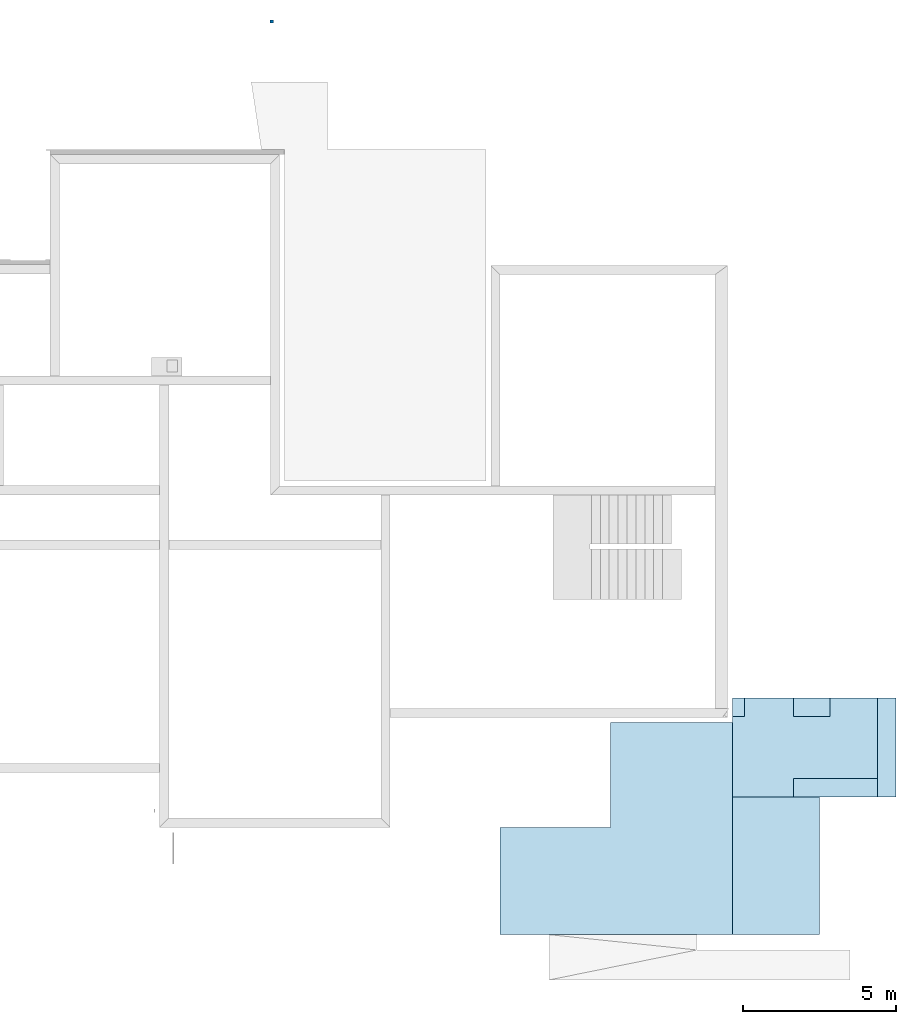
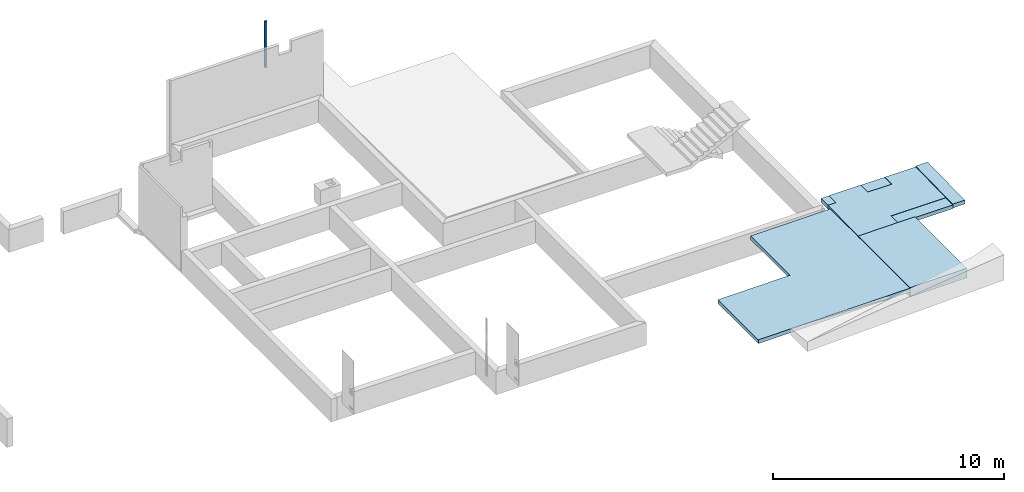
# One storey, part 2 of 5: 7 slabs, 1 column.
"""IFC2X3 building model written with IfcOpenShell, lengths in metres."""

from ifc_helpers import new_model, entity, si_unit, converted_unit, derived_unit, direction, frame, frame_2d, origin, origin_2d_with_axis, place, context, subcontext, project, spatial, polyline, rectangle, outline, extrude, source, transform, mapped, material, material_list, type_object, type_shapes, element, save


model = new_model("IFC2X3")

# Units and contexts
model_context = context("Model", 3, precision=1e-05, world=origin(), true_north=direction((6.123031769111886e-17, 1.0)))
body_context = subcontext(model_context, "Body", "Model", "MODEL_VIEW")
ifc_project = project(units=[si_unit("LENGTHUNIT", "METRE"), si_unit("AREAUNIT", "SQUARE_METRE"), si_unit("VOLUMEUNIT", "CUBIC_METRE"), converted_unit("PLANEANGLEUNIT", "DEGREE", entity("IfcRatioMeasure", 0.017453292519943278), si_unit("PLANEANGLEUNIT", "RADIAN"), dimensions=[0, 0, 0, 0, 0, 0, 0]), si_unit("MASSUNIT", "GRAM", prefix="KILO"), derived_unit("MASSDENSITYUNIT", [(si_unit("MASSUNIT", "GRAM", prefix="KILO"), 1), (si_unit("LENGTHUNIT", "METRE"), -3)]), derived_unit("MOMENTOFINERTIAUNIT", [(si_unit("LENGTHUNIT", "METRE"), 4)]), si_unit("TIMEUNIT", "SECOND"), si_unit("FREQUENCYUNIT", "HERTZ"), si_unit("THERMODYNAMICTEMPERATUREUNIT", "DEGREE_CELSIUS"), derived_unit("THERMALTRANSMITTANCEUNIT", [(si_unit("MASSUNIT", "GRAM", prefix="KILO"), 1), (si_unit("THERMODYNAMICTEMPERATUREUNIT", "KELVIN"), -1), (si_unit("TIMEUNIT", "SECOND"), -3)]), derived_unit("THERMALCONDUCTANCEUNIT", [(si_unit("MASSUNIT", "GRAM", prefix="KILO"), 1), (si_unit("LENGTHUNIT", "METRE"), 1), (si_unit("THERMODYNAMICTEMPERATUREUNIT", "KELVIN"), -1), (si_unit("TIMEUNIT", "SECOND"), -3)]), derived_unit("VOLUMETRICFLOWRATEUNIT", [(si_unit("LENGTHUNIT", "METRE"), 3), (si_unit("TIMEUNIT", "SECOND"), -1)]), derived_unit("MASSFLOWRATEUNIT", [(si_unit("MASSUNIT", "GRAM", prefix="KILO"), 1), (si_unit("TIMEUNIT", "SECOND"), -1)]), derived_unit("ROTATIONALFREQUENCYUNIT", [(si_unit("TIMEUNIT", "SECOND"), -1)]), si_unit("ELECTRICCURRENTUNIT", "AMPERE"), si_unit("ELECTRICVOLTAGEUNIT", "VOLT"), si_unit("POWERUNIT", "WATT"), si_unit("FORCEUNIT", "NEWTON", prefix="KILO"), si_unit("ILLUMINANCEUNIT", "LUX"), si_unit("LUMINOUSFLUXUNIT", "LUMEN"), si_unit("LUMINOUSINTENSITYUNIT", "CANDELA"), derived_unit("USERDEFINED", [(si_unit("MASSUNIT", "GRAM", prefix="KILO"), -1), (si_unit("LENGTHUNIT", "METRE"), -2), (si_unit("TIMEUNIT", "SECOND"), 3), (si_unit("LUMINOUSFLUXUNIT", "LUMEN"), 1)]), derived_unit("USERDEFINED", [(si_unit("MASSUNIT", "GRAM", prefix="KILO"), 1), (si_unit("LENGTHUNIT", "METRE"), 3), (si_unit("TIMEUNIT", "SECOND"), -3), (si_unit("ELECTRICCURRENTUNIT", "AMPERE"), -2)]), derived_unit("USERDEFINED", [(si_unit("LENGTHUNIT", "METRE"), 2), (si_unit("TIMEUNIT", "SECOND"), -2)]), derived_unit("SOUNDPOWERUNIT", [(si_unit("MASSUNIT", "GRAM", prefix="KILO"), 1), (si_unit("LENGTHUNIT", "METRE"), 2), (si_unit("TIMEUNIT", "SECOND"), -3)]), derived_unit("SOUNDPRESSUREUNIT", [(si_unit("MASSUNIT", "GRAM", prefix="KILO"), 1), (si_unit("LENGTHUNIT", "METRE"), -1), (si_unit("TIMEUNIT", "SECOND"), -2)]), derived_unit("LINEARVELOCITYUNIT", [(si_unit("LENGTHUNIT", "METRE"), 1), (si_unit("TIMEUNIT", "SECOND"), -1)]), si_unit("PRESSUREUNIT", "PASCAL"), derived_unit("USERDEFINED", [(si_unit("LENGTHUNIT", "METRE"), -2), (si_unit("MASSUNIT", "GRAM", prefix="KILO"), 1), (si_unit("TIMEUNIT", "SECOND"), -2)]), derived_unit("LINEARFORCEUNIT", [(si_unit("MASSUNIT", "GRAM", prefix="KILO"), 1), (si_unit("LENGTHUNIT", "METRE"), 1), (si_unit("TIMEUNIT", "SECOND"), -2), (si_unit("LENGTHUNIT", "METRE"), -1)]), derived_unit("PLANARFORCEUNIT", [(si_unit("MASSUNIT", "GRAM", prefix="KILO"), 1), (si_unit("LENGTHUNIT", "METRE"), 1), (si_unit("TIMEUNIT", "SECOND"), -2), (si_unit("LENGTHUNIT", "METRE"), -2)]), derived_unit("SPECIFICHEATCAPACITYUNIT", [(si_unit("LENGTHUNIT", "METRE"), 2), (si_unit("TIMEUNIT", "SECOND"), -2), (si_unit("THERMODYNAMICTEMPERATUREUNIT", "KELVIN"), -1)]), derived_unit("VAPORPERMEABILITYUNIT", [(si_unit("TIMEUNIT", "SECOND"), 1), (si_unit("LENGTHUNIT", "METRE"), -1)]), derived_unit("DYNAMICVISCOSITYUNIT", [(si_unit("MASSUNIT", "GRAM", prefix="KILO"), 1), (si_unit("LENGTHUNIT", "METRE"), -1), (si_unit("TIMEUNIT", "SECOND"), -1)]), derived_unit("THERMALEXPANSIONCOEFFICIENTUNIT", [(si_unit("THERMODYNAMICTEMPERATUREUNIT", "KELVIN"), -1)])], contexts=[model_context])

# Site, building, storey
site_placement = place(None, origin())
site = spatial("IfcSite", under=ifc_project, at=site_placement, Name="Default", CompositionType="ELEMENT")
building_placement = place(site_placement, origin())
building = spatial("IfcBuilding", under=site, at=building_placement, CompositionType="ELEMENT")
storey_placement = place(building_placement, frame((0.0, 0.0, -1.0)))
storey = spatial("IfcBuildingStorey", under=building, at=storey_placement, Name="VS", CompositionType="ELEMENT", Elevation=-0.9999999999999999)

# Column
ifc_material_1 = material(Name="Béton - Lissé")
ifc_material_2 = material(Name="<Unnamed>")
ifc_material_list = material_list([ifc_material_2, ifc_material_1])
column_type = type_object("IfcColumnType", Name="Pot-011 135587:Pot-011 135587", PredefinedType="COLUMN", material=ifc_material_list)
shared_shape = source(origin(), body_context, "Body", "SweptSolid", [
    extrude(rectangle(XDim=0.1, YDim=0.1, at=origin_2d_with_axis()), frame((0.0, 0.0, 0.0), z_axis=(0.0, 0.0, 1.0), x_axis=(0.0, -1.0, 0.0)), (0.0, 0.0, 1.0), 2.45),
])
type_shapes(column_type, [shared_shape])
column_placement = place(storey_placement, frame((113.53075228, 30.457209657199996, -0.10000000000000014), z_axis=(0.0, 0.0, 1.0), x_axis=(0.0, 1.0, 0.0)))
element("IfcColumn", 1, at=column_placement, inside=storey, type_object=column_type, material=ifc_material_1, Name="Pot-011", ObjectType="Pot-011 135587:Pot-011 135587", context=body_context, shape_type="MappedRepresentation", body=[
    mapped(shared_shape, transform((0.0, 0.0, 0.0), scale=1.0)),
])

# Slabs
ifc_material_3 = material(Name="Enduit - Jaune nature")
slab_type_1 = type_object("IfcSlabType", Name="Toit-03", PredefinedType="ROOF", material=ifc_material_3)
slab_1_placement = place(storey_placement, origin())
element("IfcSlab", 2, at=slab_1_placement, inside=storey, type_object=slab_type_1, Name="Toit-03 39537:Toit-03 39537", ObjectType="Toit-03 39537:Toit-03 39537", PredefinedType="ROOF", context=body_context, shape_type="SweptSolid", body=[
    extrude(outline(polyline([(0.12333761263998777, -0.026666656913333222), (3.733523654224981, -0.026666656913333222), (3.733523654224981, 3.4733333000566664), (-3.8568612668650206, 3.4733333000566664), (-3.8568612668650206, -3.4466666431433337), (0.12333761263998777, -3.4466666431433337), (0.12333761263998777, -0.026666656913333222)])), frame((124.70408372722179, 4.140542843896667, 0.7838333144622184), z_axis=(-0.009999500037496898, 0.0, 0.9999500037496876), x_axis=(-0.9999500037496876, 0.0, -0.009999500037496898)), (0.0, 0.0, 1.0), 0.19998750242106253),
])
slab_type_2 = type_object("IfcSlabType", Name="Toit-03", PredefinedType="ROOF", material=ifc_material_3)
slab_2_placement = place(storey_placement, origin())
element("IfcSlab", 3, at=slab_2_placement, inside=storey, type_object=slab_type_2, Name="Toit-03 39621:Toit-03 39621", ObjectType="Toit-03 39621:Toit-03 39621", PredefinedType="ROOF", context=body_context, shape_type="SweptSolid", body=[
    extrude(outline(polyline([(-0.5733978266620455, -2.0475000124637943), (2.0468969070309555, -2.0475000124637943), (2.0468969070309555, -0.062499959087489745), (1.4468294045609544, -0.062499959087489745), (1.4468294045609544, 2.6825000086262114), (-1.1734653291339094, 2.6825000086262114), (-1.1734653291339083, 1.1374999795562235), (-0.5733978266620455, 1.1374999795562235), (-0.5733978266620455, -0.062499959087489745), (-1.1734653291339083, -0.062499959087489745), (-1.1734653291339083, -1.647500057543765), (-0.5733978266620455, -1.647500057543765), (-0.5733978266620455, -2.0475000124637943)])), frame((130.60825227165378, 7.213876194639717, 0.8823999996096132), z_axis=(0.0, -0.014998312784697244, 0.9998875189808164), x_axis=(0.0, -0.9998875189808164, -0.014998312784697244)), (0.0, 0.0, 1.0), 0.2000000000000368),
])
ifc_material_4 = material(Name="Env. - Herbe brune")
slab_type_3 = type_object("IfcSlabType", Name="Toit-03", PredefinedType="ROOF", material=ifc_material_4)
slab_3_placement = place(storey_placement, origin())
element("IfcSlab", 4, at=slab_3_placement, inside=storey, type_object=slab_type_3, Name="Toit-03 39735:Toit-03 39735", ObjectType="Toit-03 39735:Toit-03 39735", PredefinedType="ROOF", context=body_context, shape_type="SweptSolid", body=[
    extrude(rectangle(XDim=0.19999999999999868, YDim=0.6001200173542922, at=origin_2d_with_axis()), frame((130.545752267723, 5.465209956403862, 0.9439800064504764), z_axis=(1.0, 0.0, 0.0), x_axis=(0.0, 0.019996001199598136, -0.9998000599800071)), (0.0, 0.0, 1.0), 2.744999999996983),
])
slab_type_4 = type_object("IfcSlabType", Name="Toit-03", PredefinedType="ROOF", material=ifc_material_4)
slab_4_placement = place(storey_placement, origin())
element("IfcSlab", 5, at=slab_4_placement, inside=storey, type_object=slab_type_4, Name="Toit-03 40344:Toit-03 40344", ObjectType="Toit-03 40344:Toit-03 40344", PredefinedType="ROOF", context=body_context, shape_type="SweptSolid", body=[
    extrude(rectangle(XDim=0.49992502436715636, YDim=2.8401419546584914, at=origin_2d_with_axis()), frame((129.9782527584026, 0.6672095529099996, 0.8141500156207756), z_axis=(0.0, 1.0, 0.0), x_axis=(0.009999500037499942, 0.0, -0.9999500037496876)), (0.0, 0.0, 1.0), 4.499999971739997),
])
slab_type_5 = type_object("IfcSlabType", Name="Toit-03", PredefinedType="ROOF", material=ifc_material_4)
slab_5_placement = place(storey_placement, origin())
element("IfcSlab", 6, at=slab_5_placement, inside=storey, type_object=slab_type_5, Name="Toit-03 146687:Toit-03 146687", ObjectType="Toit-03 146687:Toit-03 146687", PredefinedType="ROOF", context=body_context, shape_type="SweptSolid", body=[
    extrude(rectangle(XDim=0.19999999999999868, YDim=3.2206439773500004, at=frame_2d((-1.3877787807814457e-17, 0.0), x_axis=(1.0, 0.0))), frame((133.290752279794, 6.775209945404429, 1.0121800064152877), z_axis=(1.0, 0.0, 0.0), x_axis=(0.0, 0.019996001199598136, -0.9998000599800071)), (0.0, 0.0, 1.0), 0.5999999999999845),
])
slab_type_6 = type_object("IfcSlabType", Name="Toit-03", PredefinedType="ROOF", material=ifc_material_4)
slab_6_placement = place(storey_placement, origin())
element("IfcSlab", 7, at=slab_6_placement, inside=storey, type_object=slab_type_6, Name="Toit-03 147475:Toit-03 147475", ObjectType="Toit-03 147475:Toit-03 147475", PredefinedType="ROOF", context=body_context, shape_type="SweptSolid", body=[
    extrude(rectangle(XDim=0.1999999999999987, YDim=0.6001199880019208, at=frame_2d((-6.938893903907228e-18, 0.0), x_axis=(1.0, 0.0))), frame((130.54575228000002, 8.085209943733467, 0.9859800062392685), z_axis=(1.0, 0.0, 0.0), x_axis=(0.0, 0.019996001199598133, -0.9998000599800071)), (0.0, 0.0, 1.0), 1.1999999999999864),
])
slab_type_7 = type_object("IfcSlabType", Name="Toit-03", PredefinedType="ROOF", material=ifc_material_4)
slab_7_placement = place(storey_placement, origin())
element("IfcSlab", 8, at=slab_7_placement, inside=storey, type_object=slab_type_7, Name="Toit-03 239654:Toit-03 239654", ObjectType="Toit-03 239654:Toit-03 239654", PredefinedType="ROOF", context=body_context, shape_type="SweptSolid", body=[
    extrude(rectangle(XDim=0.1999999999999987, YDim=0.6001199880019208, at=frame_2d((-2.0816681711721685e-17, 0.0), x_axis=(1.0, 0.0))), frame((128.56075228, 8.085209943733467, 0.9859800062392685), z_axis=(1.0, 0.0, 0.0), x_axis=(0.0, 0.019996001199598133, -0.9998000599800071)), (0.0, 0.0, 1.0), 0.3999999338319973),
])

save(model, "model.ifc")
